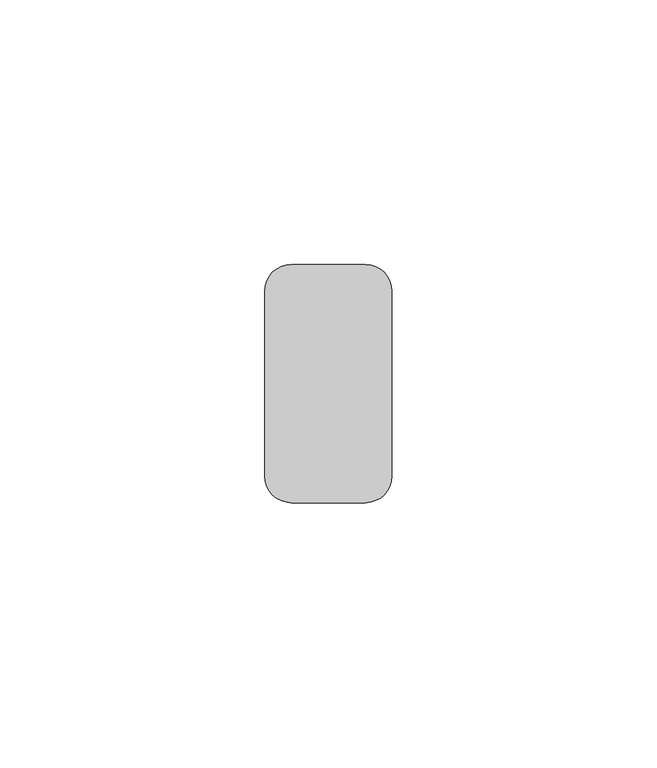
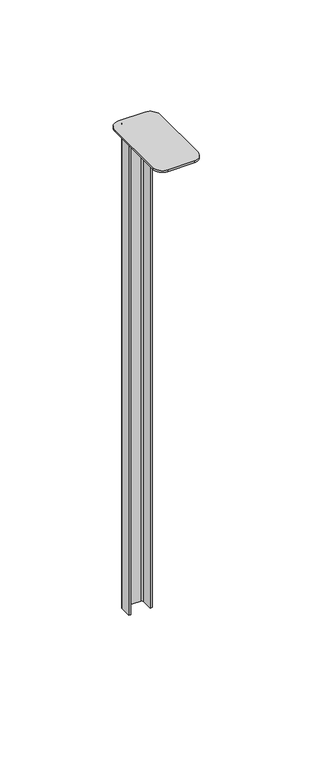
"""IFC4 building model written with IfcOpenShell, lengths in millimetres: proxy geometry, durlum_U1300 : durlum_U1300."""

from ifc_helpers import new_model, si_unit, point, frame, frame_2d, origin, place, context, project, spatial, polyline, circle_curve, trimmed, segment, composite_curve, outline, extrude, source, transform, mapped, element, save


def generic_models_489bbaa8(model_context):
    return source(origin(), model_context, "Body", "SweptSolid", [
        extrude(outline(composite_curve([segment(trimmed(circle_curve(frame_2d((7.0, -5.0)), 5.0), [point((7.0, 0.0))], [point((12.0, -5.0))], False, "CARTESIAN"), True, "CONTINUOUS"), segment(polyline([(12.0, -5.0), (12.0, -40.0)]), True, "CONTINUOUS"), segment(trimmed(circle_curve(frame_2d((7.0, -40.0)), 5.0), [point((12.0, -40.0))], [point((7.0, -45.0))], False, "CARTESIAN"), True, "CONTINUOUS"), segment(polyline([(7.0, -45.0), (-7.0, -45.0)]), True, "CONTINUOUS"), segment(trimmed(circle_curve(frame_2d((-7.0, -40.0)), 5.0), [point((-7.0, -45.0))], [point((-12.0, -40.0))], False, "CARTESIAN"), True, "CONTINUOUS"), segment(polyline([(-12.0, -40.0), (-12.0, -5.0)]), True, "CONTINUOUS"), segment(trimmed(circle_curve(frame_2d((-7.0, -5.0)), 5.0), [point((-12.0, -5.0))], [point((-7.0, 0.0))], False, "CARTESIAN"), True, "CONTINUOUS"), segment(polyline([(-7.0, 0.0), (7.0, 0.0)]), True, "CONTINUOUS")], self_intersect=False)), frame((0.0, 0.0, 987.5875318), z_axis=(0.0, 0.0, 1.0), x_axis=(1.0, 0.0, 0.0)), (0.0, 0.0, 1.0), 1.0),
        extrude(outline(composite_curve([segment(trimmed(circle_curve(frame_2d((-4.25, -2.0)), 2.0), [point((-6.25, -2.0))], [point((-4.25, 0.0))], False, "CARTESIAN"), True, "CONTINUOUS"), segment(polyline([(-4.25, 0.0), (4.25, 0.0)]), True, "CONTINUOUS"), segment(trimmed(circle_curve(frame_2d((4.25, -2.0)), 2.0), [point((4.25, 0.0))], [point((6.25, -2.0))], False, "CARTESIAN"), True, "CONTINUOUS"), segment(polyline([(6.25, -2.0), (6.25, -8.0), (5.25, -8.0), (5.25, -2.0)]), True, "CONTINUOUS"), segment(trimmed(circle_curve(frame_2d((4.25, -2.0)), 1.0), [point((5.25, -2.0))], [point((4.25, -1.0))], True, "CARTESIAN"), True, "CONTINUOUS"), segment(polyline([(4.25, -1.0), (-4.25, -1.0)]), True, "CONTINUOUS"), segment(trimmed(circle_curve(frame_2d((-4.25, -2.0)), 1.0), [point((-4.25, -1.0))], [point((-5.25, -2.0))], True, "CARTESIAN"), True, "CONTINUOUS"), segment(polyline([(-5.25, -2.0), (-5.25, -8.0), (-6.25, -8.0), (-6.25, -2.0)]), True, "CONTINUOUS")], self_intersect=False)), frame((0.0, 0.0, 716.5875318), z_axis=(0.0, 0.0, 1.0), x_axis=(1.0, 0.0, 0.0)), (0.0, 0.0, 1.0), 271.0),
    ])


if __name__ == "__main__":
    model = new_model("IFC4")
    model_context = context("Model", 3, world=origin())
    ifc_project = project(units=[si_unit("LENGTHUNIT", "METRE", prefix="MILLI")], contexts=[model_context])
    site = spatial("IfcSite", under=ifc_project)
    building = spatial("IfcBuilding", under=site)
    placement = place(None, origin())
    generic_models_shape = generic_models_489bbaa8(model_context)
    element("IfcBuildingElementProxy", 1, Name="durlum_U1300 : durlum_U1300", ObjectType="durlum_U1300 : durlum_U1300", at=placement, inside=building, context=model_context, shape_type="MappedRepresentation", body=[
        mapped(generic_models_shape, transform((0.0, 0.0, 0.0), x_axis=(1.0, 0.0, 0.0), y_axis=(0.0, 1.0, 0.0), z_axis=(0.0, 0.0, 1.0))),
    ])
    save(model, "model.ifc")
